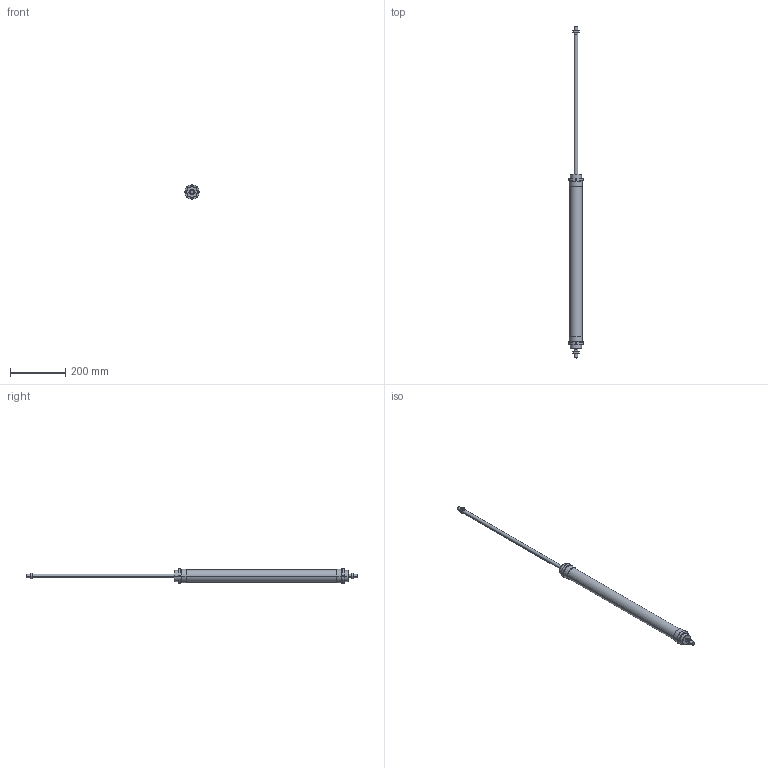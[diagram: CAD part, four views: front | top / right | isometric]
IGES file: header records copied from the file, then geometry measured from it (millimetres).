
Global section: file name: No Iges File Name specified; native system: AutoDesk Inventor R6.0; preprocessor: AutoDesk Inventor Iges Exporter R6.0; author: No Author specified; organization: No Organization specified; date: 20030403.072925; units: millimetre
Bounding box: 51.76 x 1199 x 51.76 mm (x, y, z)
Volume: 1054789.5 mm3; surface area: 182606 mm2
Topology: 6 solids, 6 shells, 182 faces, 424 edges, 264 vertices
Faces by surface type: plane 66, cone 52, bspline 30, cylinder 28, revolution 6
